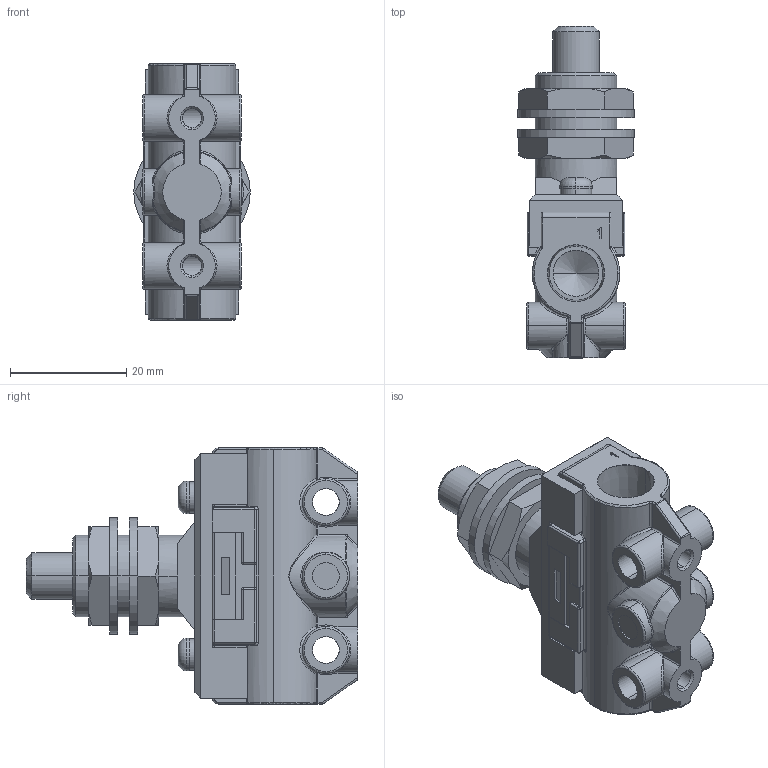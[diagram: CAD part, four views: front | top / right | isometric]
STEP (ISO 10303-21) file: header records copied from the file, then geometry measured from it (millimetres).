
FILE_DESCRIPTION (( 'STEP AP214' ), '1' );
FILE_NAME ('VM130-01-05A.step.step', '2023-01-08T18:40:29', ( '' ), ( '' ), 'SwSTEP 2.0', 'SolidWorks 2022', '' );
FILE_SCHEMA (( 'AUTOMOTIVE_DESIGN' ));
Length unit declared in the file: millimetre
Products named in the file (3): VM130-01-05A.step; VM130-01-05A.step_VM1_Side_Ported_0-01; VM130-01-05A.step_VM-05
Assembly tree (2 placements, depth 2):
  VM130-01-05A.step
    VM130-01-05A.step_VM1_Side_Ported_0-01
    VM130-01-05A.step_VM-05
Bounding box: 20 x 57 x 44 mm (x, y, z)
Volume: 19057.9 mm3; surface area: 10041.8 mm2
Topology: 2 solids, 2 shells, 469 faces, 1130 edges, 665 vertices
Faces by surface type: cylinder 161, plane 135, torus 56, cone 42, bspline 40, sphere 35
Entity records: 16788 total; most frequent: CARTESIAN_POINT 5749, DIRECTION 2274, ORIENTED_EDGE 2210, EDGE_CURVE 1105, AXIS2_PLACEMENT_3D 890, VERTEX_POINT 665, EDGE_LOOP 506, LINE 494
